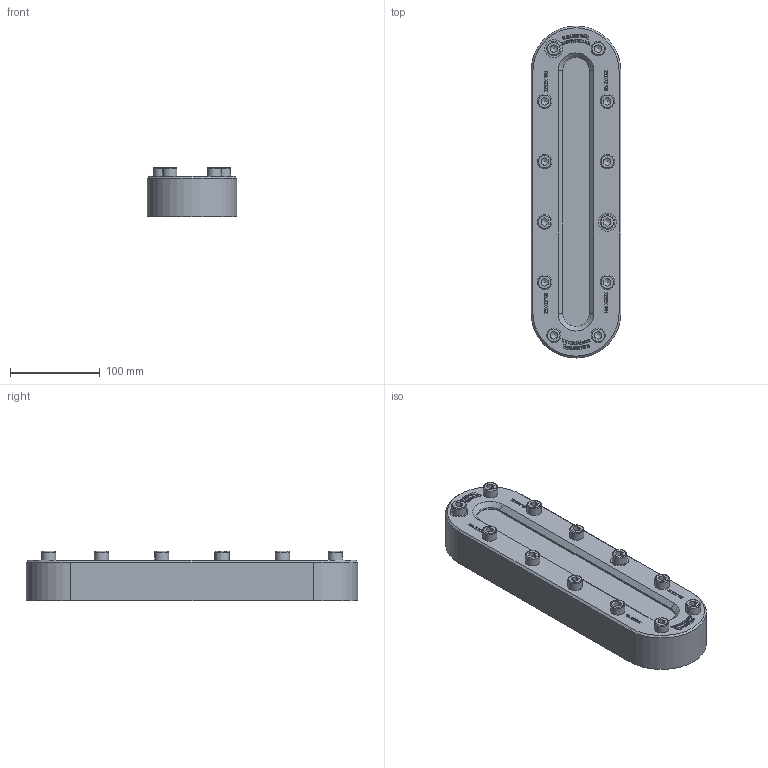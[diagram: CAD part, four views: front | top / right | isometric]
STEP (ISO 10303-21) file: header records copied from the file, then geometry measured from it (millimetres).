
FILE_DESCRIPTION(/* description */ (''),/* implementation_level */ '2;1');
FILE_NAME(/* name */ 'W:\Konstruktion_ACI\336\STEP\ACI-336-370.stp',/* time_stamp */ '2022-03-08T13:22:26+01:00',/* author */ ('Travnicek'),/* organization */ ('ACI Industriearmaturen'),/* preprocessor_version */ 'ST-DEVELOPER v16.1',/* originating_system */ 'Autodesk Inventor 2016',/* authorisation */ '');
FILE_SCHEMA (('AUTOMOTIVE_DESIGN { 1 0 10303 214 3 1 1 }'));
Length unit declared in the file: centimetre
Products named in the file (1): 336-ZB
Bounding box: 100 x 370 x 54.9 mm (x, y, z)
Volume: 1340580.2 mm3; surface area: 130127.3 mm2
Topology: 1 solids, 1 shells, 1394 faces, 3806 edges, 2530 vertices
Faces by surface type: plane 910, bspline 436, cylinder 20, cone 16, torus 12
Full cylindrical faces by diameter (mm): 16 x12, 20 x2
Entity records: 46736 total; most frequent: CARTESIAN_POINT 13461, ORIENTED_EDGE 7492, DIRECTION 4776, EDGE_CURVE 3746, LINE 2746, VECTOR 2746, VERTEX_POINT 2508, EDGE_LOOP 1548
